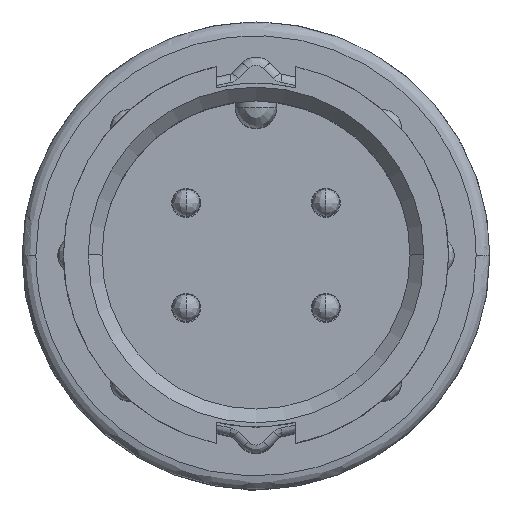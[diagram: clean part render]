
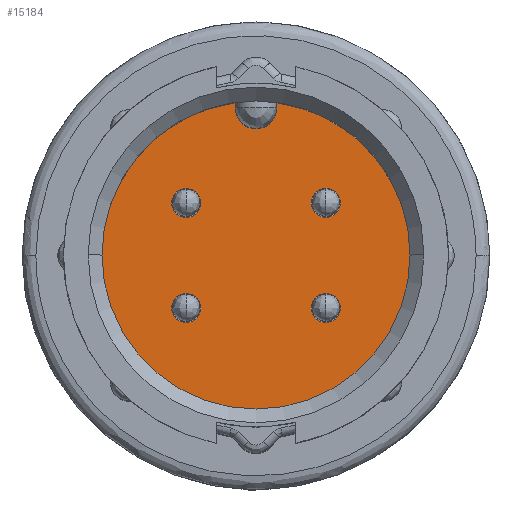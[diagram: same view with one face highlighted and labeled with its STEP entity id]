
A CAD part, top view. The second image highlights one B-rep face of the part: STEP entity #15184.
In plain terms, the highlighted planar face has unit normal (0, 0, 1).
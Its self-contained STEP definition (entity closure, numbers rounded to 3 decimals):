
#110 = PLANE ( 'NONE',  #11523 ) ;
#284 = DIRECTION ( 'NONE',  ( 1., 0., 0. ) ) ;
#531 = ORIENTED_EDGE ( 'NONE', *, *, #20955, .T. ) ;
#566 = CARTESIAN_POINT ( 'NONE',  ( -5.824, -5.825, -9. ) ) ;
#763 = VERTEX_POINT ( 'NONE', #19316 ) ;
#830 = CIRCLE ( 'NONE', #17351, 5.6 ) ;
#841 = CARTESIAN_POINT ( 'NONE',  ( -0.75, 5.55, -9. ) ) ;
#844 = DIRECTION ( 'NONE',  ( 0., 0., 1. ) ) ;
#1485 = CIRCLE ( 'NONE', #26042, 5.6 ) ;
#1502 = DIRECTION ( 'NONE',  ( 0., 0., 1. ) ) ;
#2333 = CARTESIAN_POINT ( 'NONE',  ( 2.54, -1.91, -9. ) ) ;
#2459 = FACE_BOUND ( 'NONE', #9561, .T. ) ;
#2768 = FACE_BOUND ( 'NONE', #10492, .T. ) ;
#2835 = CARTESIAN_POINT ( 'NONE',  ( 0., 0., -9. ) ) ;
#3144 = VERTEX_POINT ( 'NONE', #841 ) ;
#3264 = ORIENTED_EDGE ( 'NONE', *, *, #10259, .F. ) ;
#3416 = CARTESIAN_POINT ( 'NONE',  ( 0., 5.35, -9. ) ) ;
#3492 = EDGE_CURVE ( 'NONE', #7068, #13396, #29332, .T. ) ;
#3615 = CIRCLE ( 'NONE', #19649, 5.6 ) ;
#3656 = CARTESIAN_POINT ( 'NONE',  ( -2.54, 1.905, -9. ) ) ;
#4327 = ORIENTED_EDGE ( 'NONE', *, *, #9956, .F. ) ;
#4374 = EDGE_CURVE ( 'NONE', #8021, #10514, #7828, .T. ) ;
#4482 = EDGE_CURVE ( 'NONE', #23697, #8744, #7260, .T. ) ;
#4722 = CARTESIAN_POINT ( 'NONE',  ( -2.54, -1.91, -9. ) ) ;
#4959 = AXIS2_PLACEMENT_3D ( 'NONE', #3656, #844, #24994 ) ;
#5146 = DIRECTION ( 'NONE',  ( 0., 0., 1. ) ) ;
#5276 = FACE_BOUND ( 'NONE', #23745, .T. ) ;
#5330 = EDGE_CURVE ( 'NONE', #10973, #12467, #830, .T. ) ;
#5426 = VECTOR ( 'NONE', #20136, 1000. ) ;
#5594 = CIRCLE ( 'NONE', #29612, 0.75 ) ;
#5801 = CARTESIAN_POINT ( 'NONE',  ( 2.54, 1.91, -9. ) ) ;
#5868 = VERTEX_POINT ( 'NONE', #10397 ) ;
#6301 = ORIENTED_EDGE ( 'NONE', *, *, #11872, .F. ) ;
#6320 = AXIS2_PLACEMENT_3D ( 'NONE', #8676, #21039, #6640 ) ;
#6470 = ORIENTED_EDGE ( 'NONE', *, *, #4482, .F. ) ;
#6633 = EDGE_LOOP ( 'NONE', ( #7016, #17141, #531, #6470, #27278, #28846 ) ) ;
#6640 = DIRECTION ( 'NONE',  ( 1., 0., 0. ) ) ;
#7016 = ORIENTED_EDGE ( 'NONE', *, *, #14806, .T. ) ;
#7068 = VERTEX_POINT ( 'NONE', #11245 ) ;
#7260 = LINE ( 'NONE', #26074, #13845 ) ;
#7322 = AXIS2_PLACEMENT_3D ( 'NONE', #18094, #27667, #24863 ) ;
#7398 = EDGE_CURVE ( 'NONE', #10514, #8021, #7409, .T. ) ;
#7409 = CIRCLE ( 'NONE', #15887, 0.525 ) ;
#7556 = DIRECTION ( 'NONE',  ( 1., 0., 0. ) ) ;
#7828 = CIRCLE ( 'NONE', #6320, 0.525 ) ;
#8021 = VERTEX_POINT ( 'NONE', #20137 ) ;
#8145 = CARTESIAN_POINT ( 'NONE',  ( 0.75, 5.35, -9. ) ) ;
#8158 = DIRECTION ( 'NONE',  ( 1., 0., 0. ) ) ;
#8256 = CARTESIAN_POINT ( 'NONE',  ( 3.065, 1.91, -9. ) ) ;
#8431 = DIRECTION ( 'NONE',  ( 1., 0., 0. ) ) ;
#8484 = CARTESIAN_POINT ( 'NONE',  ( 0.75, 5.55, -9. ) ) ;
#8573 = VERTEX_POINT ( 'NONE', #14007 ) ;
#8676 = CARTESIAN_POINT ( 'NONE',  ( 2.54, -1.91, -9. ) ) ;
#8744 = VERTEX_POINT ( 'NONE', #8484 ) ;
#9035 = CIRCLE ( 'NONE', #23060, 0.525 ) ;
#9561 = EDGE_LOOP ( 'NONE', ( #24187, #23859 ) ) ;
#9956 = EDGE_CURVE ( 'NONE', #8573, #25399, #13906, .T. ) ;
#10259 = EDGE_CURVE ( 'NONE', #25399, #8573, #11407, .T. ) ;
#10397 = CARTESIAN_POINT ( 'NONE',  ( -0.75, 5.35, -9. ) ) ;
#10492 = EDGE_LOOP ( 'NONE', ( #18655, #6301 ) ) ;
#10514 = VERTEX_POINT ( 'NONE', #28745 ) ;
#10973 = VERTEX_POINT ( 'NONE', #25647 ) ;
#11093 = DIRECTION ( 'NONE',  ( 1., 0., 0. ) ) ;
#11104 = DIRECTION ( 'NONE',  ( 0., 0., 1. ) ) ;
#11245 = CARTESIAN_POINT ( 'NONE',  ( -2.015, -1.91, -9. ) ) ;
#11407 = CIRCLE ( 'NONE', #4959, 0.525 ) ;
#11523 = AXIS2_PLACEMENT_3D ( 'NONE', #566, #14534, #14995 ) ;
#11872 = EDGE_CURVE ( 'NONE', #763, #29179, #23463, .T. ) ;
#12040 = FACE_BOUND ( 'NONE', #13513, .T. ) ;
#12266 = ORIENTED_EDGE ( 'NONE', *, *, #20868, .F. ) ;
#12420 = EDGE_CURVE ( 'NONE', #3144, #5868, #15741, .T. ) ;
#12467 = VERTEX_POINT ( 'NONE', #22651 ) ;
#13299 = DIRECTION ( 'NONE',  ( 1., 0., 0. ) ) ;
#13344 = DIRECTION ( 'NONE',  ( 1., 0., 0. ) ) ;
#13396 = VERTEX_POINT ( 'NONE', #13557 ) ;
#13456 = DIRECTION ( 'NONE',  ( 0., 0., 1. ) ) ;
#13513 = EDGE_LOOP ( 'NONE', ( #3264, #4327 ) ) ;
#13557 = CARTESIAN_POINT ( 'NONE',  ( -3.065, -1.91, -9. ) ) ;
#13845 = VECTOR ( 'NONE', #19620, 1000. ) ;
#13906 = CIRCLE ( 'NONE', #29003, 0.525 ) ;
#14007 = CARTESIAN_POINT ( 'NONE',  ( -3.065, 1.905, -9. ) ) ;
#14534 = DIRECTION ( 'NONE',  ( 0., 0., 1. ) ) ;
#14806 = EDGE_CURVE ( 'NONE', #3144, #10973, #1485, .T. ) ;
#14995 = DIRECTION ( 'NONE',  ( 1., 0., 0. ) ) ;
#15184 = ADVANCED_FACE ( 'NONE', ( #2768, #2459, #5276, #12040, #24254 ), #110, .T. ) ;
#15741 = LINE ( 'NONE', #23274, #5426 ) ;
#15887 = AXIS2_PLACEMENT_3D ( 'NONE', #2333, #5146, #19098 ) ;
#16484 = EDGE_CURVE ( 'NONE', #29179, #763, #9035, .T. ) ;
#16630 = AXIS2_PLACEMENT_3D ( 'NONE', #4722, #21805, #26059 ) ;
#17141 = ORIENTED_EDGE ( 'NONE', *, *, #5330, .T. ) ;
#17351 = AXIS2_PLACEMENT_3D ( 'NONE', #30270, #30581, #13344 ) ;
#18094 = CARTESIAN_POINT ( 'NONE',  ( -2.54, -1.91, -9. ) ) ;
#18655 = ORIENTED_EDGE ( 'NONE', *, *, #16484, .F. ) ;
#19014 = EDGE_CURVE ( 'NONE', #5868, #23697, #5594, .T. ) ;
#19098 = DIRECTION ( 'NONE',  ( 1., 0., 0. ) ) ;
#19316 = CARTESIAN_POINT ( 'NONE',  ( 2.015, 1.91, -9. ) ) ;
#19620 = DIRECTION ( 'NONE',  ( 0., 1., 0. ) ) ;
#19649 = AXIS2_PLACEMENT_3D ( 'NONE', #2835, #24932, #7556 ) ;
#19703 = DIRECTION ( 'NONE',  ( 0., 0., 1. ) ) ;
#20136 = DIRECTION ( 'NONE',  ( 0., -1., 0. ) ) ;
#20137 = CARTESIAN_POINT ( 'NONE',  ( 2.015, -1.91, -9. ) ) ;
#20868 = EDGE_CURVE ( 'NONE', #13396, #7068, #23639, .T. ) ;
#20955 = EDGE_CURVE ( 'NONE', #12467, #8744, #3615, .T. ) ;
#21039 = DIRECTION ( 'NONE',  ( 0., 0., 1. ) ) ;
#21805 = DIRECTION ( 'NONE',  ( 0., 0., 1. ) ) ;
#22651 = CARTESIAN_POINT ( 'NONE',  ( 5.6, 0., -9. ) ) ;
#22695 = CARTESIAN_POINT ( 'NONE',  ( 0., 0., -9. ) ) ;
#22993 = CARTESIAN_POINT ( 'NONE',  ( 2.54, 1.91, -9. ) ) ;
#23060 = AXIS2_PLACEMENT_3D ( 'NONE', #5801, #29635, #8158 ) ;
#23274 = CARTESIAN_POINT ( 'NONE',  ( -0.75, -0.026, -9. ) ) ;
#23463 = CIRCLE ( 'NONE', #29460, 0.525 ) ;
#23639 = CIRCLE ( 'NONE', #16630, 0.525 ) ;
#23697 = VERTEX_POINT ( 'NONE', #8145 ) ;
#23733 = ORIENTED_EDGE ( 'NONE', *, *, #3492, .F. ) ;
#23745 = EDGE_LOOP ( 'NONE', ( #23733, #12266 ) ) ;
#23859 = ORIENTED_EDGE ( 'NONE', *, *, #4374, .F. ) ;
#24187 = ORIENTED_EDGE ( 'NONE', *, *, #7398, .F. ) ;
#24254 = FACE_OUTER_BOUND ( 'NONE', #6633, .T. ) ;
#24428 = CARTESIAN_POINT ( 'NONE',  ( -2.54, 1.905, -9. ) ) ;
#24863 = DIRECTION ( 'NONE',  ( 1., 0., 0. ) ) ;
#24932 = DIRECTION ( 'NONE',  ( 0., 0., 1. ) ) ;
#24994 = DIRECTION ( 'NONE',  ( 1., 0., 0. ) ) ;
#25399 = VERTEX_POINT ( 'NONE', #26986 ) ;
#25647 = CARTESIAN_POINT ( 'NONE',  ( -5.6, 0., -9. ) ) ;
#26042 = AXIS2_PLACEMENT_3D ( 'NONE', #22695, #11104, #8431 ) ;
#26059 = DIRECTION ( 'NONE',  ( 1., 0., 0. ) ) ;
#26074 = CARTESIAN_POINT ( 'NONE',  ( 0.75, -0.026, -9. ) ) ;
#26986 = CARTESIAN_POINT ( 'NONE',  ( -2.015, 1.905, -9. ) ) ;
#27278 = ORIENTED_EDGE ( 'NONE', *, *, #19014, .F. ) ;
#27667 = DIRECTION ( 'NONE',  ( 0., 0., 1. ) ) ;
#28745 = CARTESIAN_POINT ( 'NONE',  ( 3.065, -1.91, -9. ) ) ;
#28846 = ORIENTED_EDGE ( 'NONE', *, *, #12420, .F. ) ;
#29003 = AXIS2_PLACEMENT_3D ( 'NONE', #24428, #19703, #284 ) ;
#29179 = VERTEX_POINT ( 'NONE', #8256 ) ;
#29332 = CIRCLE ( 'NONE', #7322, 0.525 ) ;
#29460 = AXIS2_PLACEMENT_3D ( 'NONE', #22993, #1502, #11093 ) ;
#29612 = AXIS2_PLACEMENT_3D ( 'NONE', #3416, #13456, #13299 ) ;
#29635 = DIRECTION ( 'NONE',  ( 0., 0., 1. ) ) ;
#30270 = CARTESIAN_POINT ( 'NONE',  ( 0., 0., -9. ) ) ;
#30581 = DIRECTION ( 'NONE',  ( 0., 0., 1. ) ) ;
